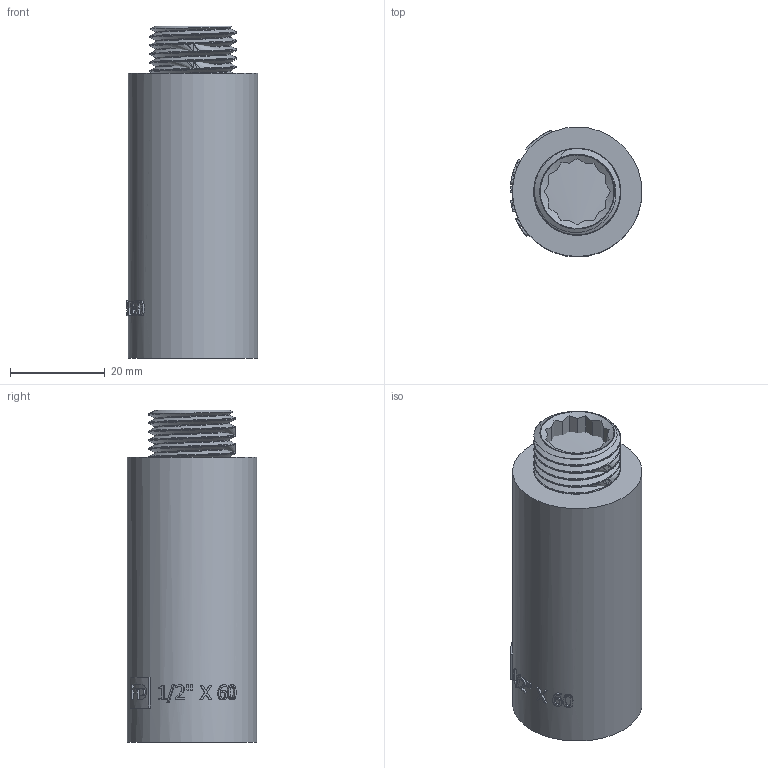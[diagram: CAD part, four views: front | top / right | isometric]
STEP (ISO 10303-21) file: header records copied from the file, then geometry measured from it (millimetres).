
FILE_DESCRIPTION(/* description */ (''),/* implementation_level */ '2;1');
FILE_NAME(/* name */ 'C:\Users\Doom\Desktop\Фадотех\Резьба\UD60 18.03.2020\UD60 18.03.2020.stp',/* time_stamp */ '2022-01-22T11:46:44+02:00',/* author */ ('Doom'),/* organization */ (''),/* preprocessor_version */ 'ST-DEVELOPER v18',/* originating_system */ 'Autodesk Inventor 2020',/* authorisation */ '');
FILE_SCHEMA (('AUTOMOTIVE_DESIGN { 1 0 10303 214 3 1 1 }'));
Length unit declared in the file: millimetre
Products named in the file (1): UD60 18.03.2020
Bounding box: 27.8 x 27.3 x 70 mm (x, y, z)
Volume: 22584.9 mm3; surface area: 16858.4 mm2
Topology: 3 solids, 3 shells, 201 faces, 543 edges, 362 vertices
Faces by surface type: plane 78, bspline 74, cylinder 46, cone 3
Full cylindrical faces by diameter (mm): 15.649 x2, 16.858 x1, 18.26 x16, 18.34 x6, 20.95 x2, 21.5 x1, 27.3 x1
Entity records: 17583 total; most frequent: CARTESIAN_POINT 13154, ORIENTED_EDGE 1078, DIRECTION 638, EDGE_CURVE 539, VERTEX_POINT 360, EDGE_LOOP 223, AXIS2_PLACEMENT_3D 221, FACE_OUTER_BOUND 201
